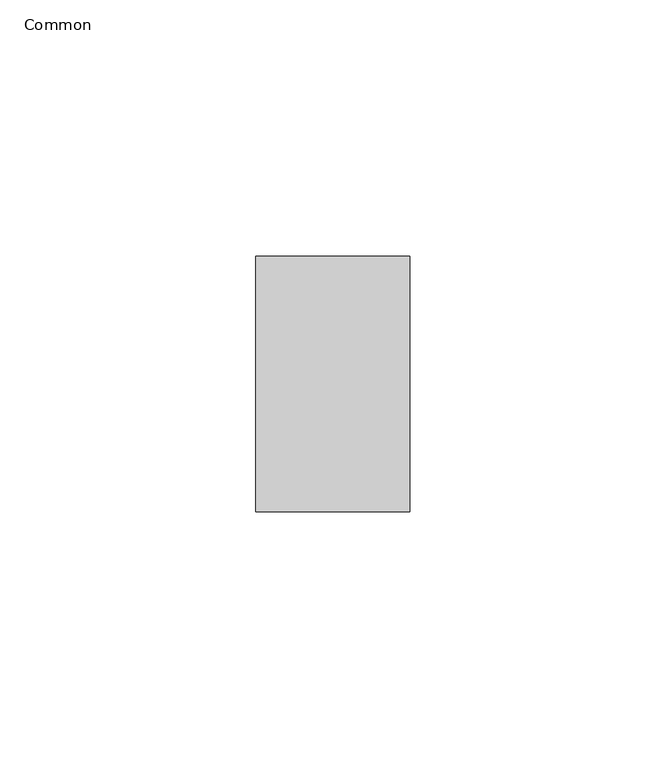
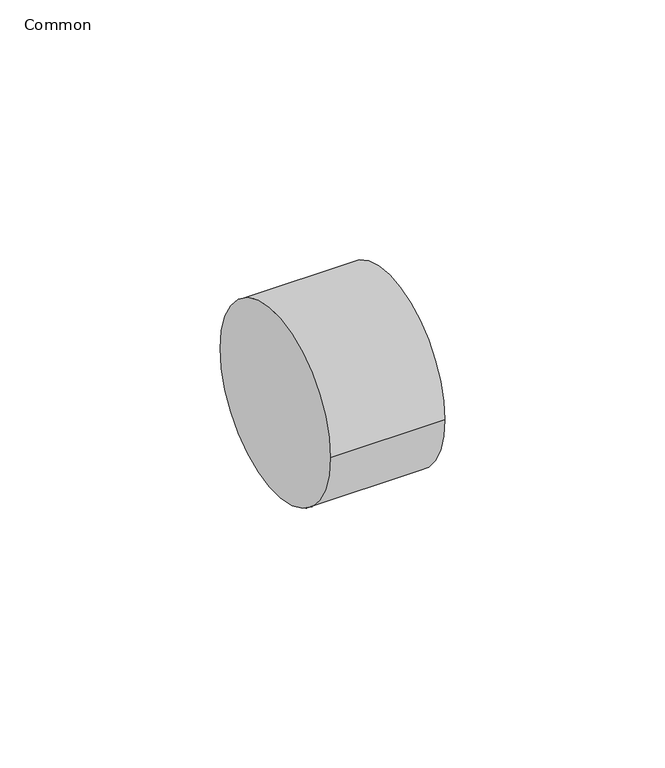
"""IFC4 building model written with IfcOpenShell, lengths in millimetres: pipe fitting geometry, 071_キャップ : Common."""

from ifc_helpers import new_model, si_unit, point, frame, origin, origin_2d, place, context, project, spatial, circle_curve, trimmed, segment, composite_curve, outline, extrude, source, transform, mapped, element, save


def common_c16f28a7(model_context):
    return source(origin(), model_context, "Body", "SweptSolid", [
        extrude(outline(composite_curve([segment(trimmed(circle_curve(origin_2d(), 25.0), [point((-25.0, 0.0))], [point((25.0, 0.0))], False, "CARTESIAN"), True, "CONTINUOUS"), segment(trimmed(circle_curve(origin_2d(), 25.0), [point((25.0, 0.0))], [point((-25.0, 0.0))], False, "CARTESIAN"), True, "CONTINUOUS")], self_intersect=False)), frame((0.0, 0.0, 0.0), z_axis=(1.0, 0.0, 0.0), x_axis=(0.0, 1.0, 0.0)), (0.0, 0.0, 1.0), 30.0),
    ])


if __name__ == "__main__":
    model = new_model("IFC4")
    model_context = context("Model", 3, world=origin())
    ifc_project = project(units=[si_unit("LENGTHUNIT", "METRE", prefix="MILLI")], contexts=[model_context])
    site = spatial("IfcSite", under=ifc_project)
    building = spatial("IfcBuilding", under=site)
    placement = place(None, origin())
    common_shape = common_c16f28a7(model_context)
    element("IfcPipeFitting", 1, ObjectType="071_キャップ : Common", at=placement, inside=building, context=model_context, shape_type="MappedRepresentation", body=[
        mapped(common_shape, transform((0.0, 0.0, 0.0), x_axis=(1.0, 0.0, 0.0), y_axis=(0.0, 1.0, 0.0), z_axis=(0.0, 0.0, 1.0))),
    ])
    save(model, "model.ifc")
